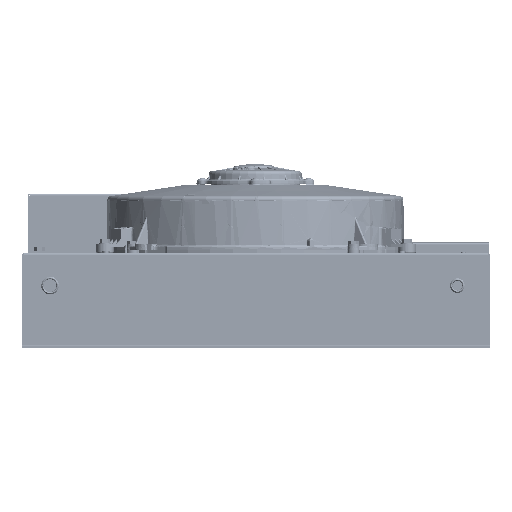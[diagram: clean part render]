
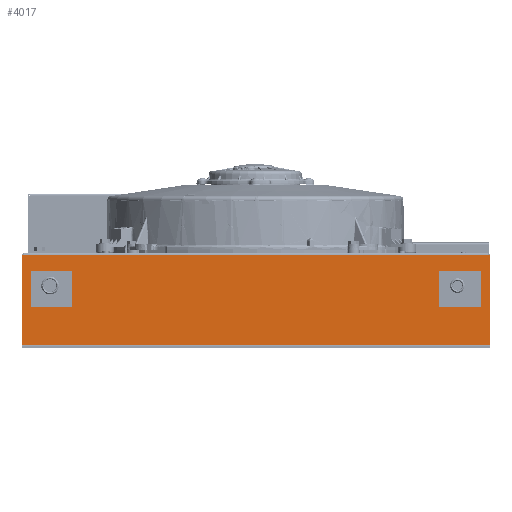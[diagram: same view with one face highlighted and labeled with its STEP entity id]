
A CAD part, left-side view. The second image highlights one B-rep face of the part: STEP entity #4017.
In plain terms, the highlighted planar face has unit normal (-1, 0, 0).
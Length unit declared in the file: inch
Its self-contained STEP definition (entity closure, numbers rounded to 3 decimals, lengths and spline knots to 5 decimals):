
#1881=CARTESIAN_POINT('',(-0.74493,-1.04674,-0.72));
#1882=VERTEX_POINT('',#1881);
#1889=CARTESIAN_POINT('',(-0.74493,0.70326,-0.72));
#1890=VERTEX_POINT('',#1889);
#1891=CARTESIAN_POINT('',(-0.74493,0.70326,-0.72));
#1892=DIRECTION('',(0.0,-1.0,0.0));
#1893=VECTOR('',#1892,1.75);
#1894=LINE('',#1891,#1893);
#1895=EDGE_CURVE('',#1890,#1882,#1894,.T.);
#1920=CARTESIAN_POINT('',(-0.74493,0.70326,-2.22));
#1921=VERTEX_POINT('',#1920);
#1922=CARTESIAN_POINT('',(-0.74493,0.70326,-2.22));
#1923=DIRECTION('',(0.0,0.0,1.0));
#1924=VECTOR('',#1923,1.5);
#1925=LINE('',#1922,#1924);
#1926=EDGE_CURVE('',#1921,#1890,#1925,.T.);
#1951=CARTESIAN_POINT('',(-0.74493,-1.04674,-2.22));
#1952=VERTEX_POINT('',#1951);
#1953=CARTESIAN_POINT('',(-0.74493,-1.04674,-2.22));
#1954=DIRECTION('',(0.0,1.0,0.0));
#1955=VECTOR('',#1954,1.75);
#1956=LINE('',#1953,#1955);
#1957=EDGE_CURVE('',#1952,#1921,#1956,.T.);
#1980=CARTESIAN_POINT('',(-0.74493,-1.04674,-0.72));
#1981=DIRECTION('',(0.0,0.0,-1.0));
#1982=VECTOR('',#1981,1.5);
#1983=LINE('',#1980,#1982);
#1984=EDGE_CURVE('',#1882,#1952,#1983,.T.);
#2005=CARTESIAN_POINT('',(-0.74493,17.95326,-2.22));
#2006=VERTEX_POINT('',#2005);
#2013=CARTESIAN_POINT('',(-0.74493,16.20326,-2.22));
#2014=VERTEX_POINT('',#2013);
#2015=CARTESIAN_POINT('',(-0.74493,16.20326,-2.22));
#2016=DIRECTION('',(0.0,1.0,0.0));
#2017=VECTOR('',#2016,1.75);
#2018=LINE('',#2015,#2017);
#2019=EDGE_CURVE('',#2014,#2006,#2018,.T.);
#2044=CARTESIAN_POINT('',(-0.74493,16.20326,-0.72));
#2045=VERTEX_POINT('',#2044);
#2046=CARTESIAN_POINT('',(-0.74493,16.20326,-0.72));
#2047=DIRECTION('',(0.0,0.0,-1.0));
#2048=VECTOR('',#2047,1.5);
#2049=LINE('',#2046,#2048);
#2050=EDGE_CURVE('',#2045,#2014,#2049,.T.);
#2075=CARTESIAN_POINT('',(-0.74493,17.95326,-0.72));
#2076=VERTEX_POINT('',#2075);
#2077=CARTESIAN_POINT('',(-0.74493,17.95326,-0.72));
#2078=DIRECTION('',(0.0,-1.0,0.0));
#2079=VECTOR('',#2078,1.75);
#2080=LINE('',#2077,#2079);
#2081=EDGE_CURVE('',#2076,#2045,#2080,.T.);
#2104=CARTESIAN_POINT('',(-0.74493,17.95326,-2.22));
#2105=DIRECTION('',(0.0,0.0,1.0));
#2106=VECTOR('',#2105,1.5);
#2107=LINE('',#2104,#2106);
#2108=EDGE_CURVE('',#2006,#2076,#2107,.T.);
#2381=CARTESIAN_POINT('',(-0.74493,-1.42874,-0.03));
#2382=VERTEX_POINT('',#2381);
#2397=CARTESIAN_POINT('',(-0.74493,-1.33974,-0.03));
#2398=VERTEX_POINT('',#2397);
#2405=CARTESIAN_POINT('',(-0.74493,-1.33974,-0.03));
#2406=DIRECTION('',(0.0,-1.0,0.0));
#2407=VECTOR('',#2406,0.089);
#2408=LINE('',#2405,#2407);
#2409=EDGE_CURVE('',#2398,#2382,#2408,.T.);
#2549=CARTESIAN_POINT('',(-0.74493,18.23226,-0.03));
#2550=VERTEX_POINT('',#2549);
#2558=CARTESIAN_POINT('',(-0.74493,18.23226,-0.03));
#2559=DIRECTION('',(0.0,-1.0,0.0));
#2560=VECTOR('',#2559,19.572);
#2561=LINE('',#2558,#2560);
#2562=EDGE_CURVE('',#2550,#2398,#2561,.T.);
#2573=CARTESIAN_POINT('',(-0.74493,-1.42874,-3.852));
#2574=VERTEX_POINT('',#2573);
#2575=CARTESIAN_POINT('',(-0.74493,-1.42874,-3.852));
#2576=DIRECTION('',(0.0,0.0,1.0));
#2577=VECTOR('',#2576,3.822);
#2578=LINE('',#2575,#2577);
#2579=EDGE_CURVE('',#2574,#2382,#2578,.T.);
#3107=CARTESIAN_POINT('',(-0.74493,18.32126,-0.03));
#3108=VERTEX_POINT('',#3107);
#3117=CARTESIAN_POINT('',(-0.74493,18.32126,-0.03));
#3118=DIRECTION('',(0.0,-1.0,0.0));
#3119=VECTOR('',#3118,0.089);
#3120=LINE('',#3117,#3119);
#3121=EDGE_CURVE('',#3108,#2550,#3120,.T.);
#3261=CARTESIAN_POINT('',(-0.74493,18.32126,-3.852));
#3262=VERTEX_POINT('',#3261);
#3270=CARTESIAN_POINT('',(-0.74493,18.32126,-0.03));
#3271=DIRECTION('',(0.0,0.0,-1.0));
#3272=VECTOR('',#3271,3.822);
#3273=LINE('',#3270,#3272);
#3274=EDGE_CURVE('',#3108,#3262,#3273,.T.);
#3511=CARTESIAN_POINT('',(-0.74493,18.32126,-3.852));
#3512=DIRECTION('',(0.0,-1.0,0.0));
#3513=VECTOR('',#3512,19.75);
#3514=LINE('',#3511,#3513);
#3515=EDGE_CURVE('',#3262,#2574,#3514,.T.);
#3992=CARTESIAN_POINT('',(-0.74493,-1.42874,0.059));
#3993=DIRECTION('',(-1.0,0.0,0.0));
#3994=DIRECTION('',(0.0,0.0,1.0));
#3995=AXIS2_PLACEMENT_3D('',#3992,#3993,#3994);
#3996=PLANE('',#3995);
#3997=ORIENTED_EDGE('',*,*,#3515,.T.);
#3998=ORIENTED_EDGE('',*,*,#2579,.T.);
#3999=ORIENTED_EDGE('',*,*,#2409,.F.);
#4000=ORIENTED_EDGE('',*,*,#2562,.F.);
#4001=ORIENTED_EDGE('',*,*,#3121,.F.);
#4002=ORIENTED_EDGE('',*,*,#3274,.T.);
#4003=EDGE_LOOP('',(#3997,#3998,#3999,#4000,#4001,#4002));
#4004=FACE_OUTER_BOUND('',#4003,.T.);
#4005=ORIENTED_EDGE('',*,*,#1895,.T.);
#4006=ORIENTED_EDGE('',*,*,#1984,.T.);
#4007=ORIENTED_EDGE('',*,*,#1957,.T.);
#4008=ORIENTED_EDGE('',*,*,#1926,.T.);
#4009=EDGE_LOOP('',(#4005,#4006,#4007,#4008));
#4010=FACE_BOUND('',#4009,.T.);
#4011=ORIENTED_EDGE('',*,*,#2019,.T.);
#4012=ORIENTED_EDGE('',*,*,#2108,.T.);
#4013=ORIENTED_EDGE('',*,*,#2081,.T.);
#4014=ORIENTED_EDGE('',*,*,#2050,.T.);
#4015=EDGE_LOOP('',(#4011,#4012,#4013,#4014));
#4016=FACE_BOUND('',#4015,.T.);
#4017=ADVANCED_FACE('',(#4004,#4010,#4016),#3996,.T.);
